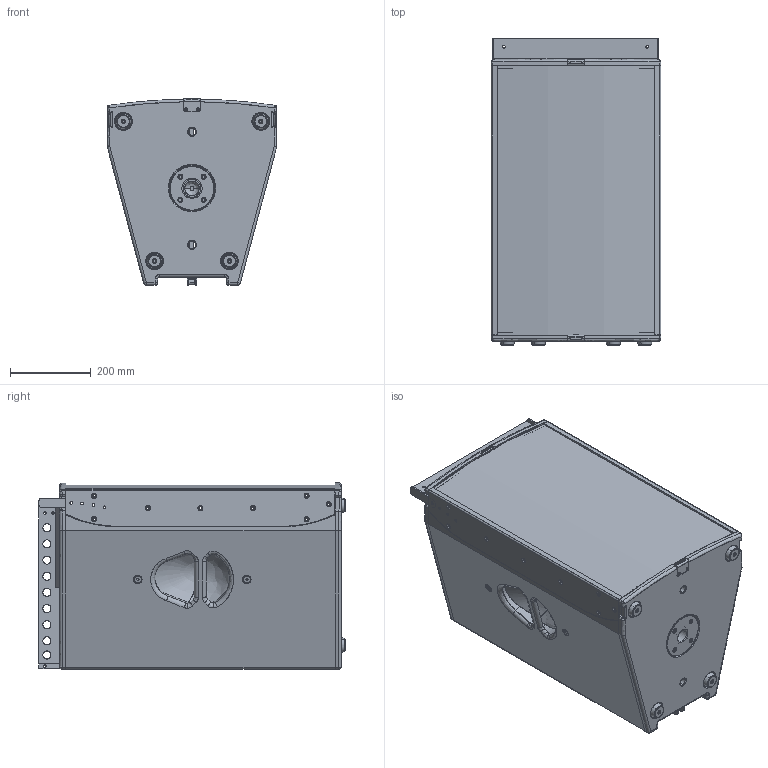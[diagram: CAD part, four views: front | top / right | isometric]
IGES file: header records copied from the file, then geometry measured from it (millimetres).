
Start section: SolidWorks IGES file using analytic representation for surfaces
Global section: file name: C:\Documents and Settings\Administrator\My Documents\Michl\SolidWorks\3d_Dateien_Homepage\Neue-Produkte\SEEBURG_K24_Cradle.IGS; native system: SolidWorks 2009; preprocessor: SolidWorks 2009; author: Administrator; date: 140404.095522; units: millimetre
Bounding box: 420 x 758.5 x 461.84 mm (x, y, z)
Surface area: 3717022.7 mm2 (no closed solid volume)
Topology: 0 solids, 0 shells, 1453 faces, 23861 edges, 23851 vertices
Faces by surface type: revolution 906, bspline 547
